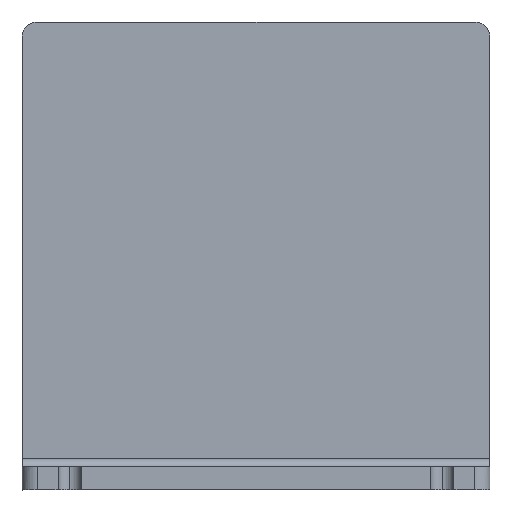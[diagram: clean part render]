
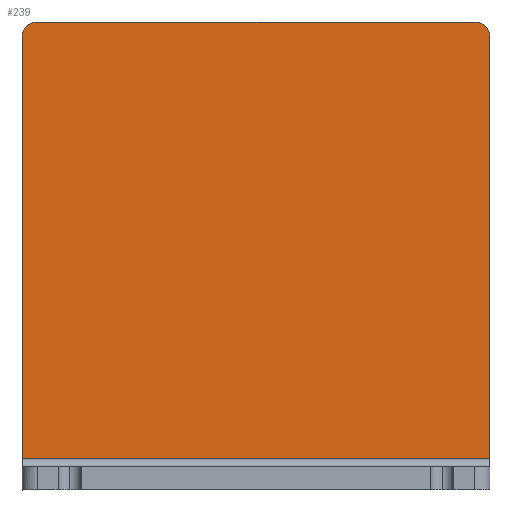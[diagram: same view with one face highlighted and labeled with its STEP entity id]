
A CAD part, left-side view. The second image highlights one B-rep face of the part: STEP entity #239.
In plain terms, the highlighted planar face has unit normal (-1, 0, 0).
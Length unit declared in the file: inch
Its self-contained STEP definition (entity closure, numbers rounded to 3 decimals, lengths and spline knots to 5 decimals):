
#82=PLANE('',#8208);
#239=ADVANCED_FACE('',(#1065),#82,.T.);
#1065=FACE_OUTER_BOUND('',#1499,.T.);
#1499=EDGE_LOOP('',(#2974,#2975,#2976,#2977,#2978,#2979));
#1957=B_SPLINE_CURVE_WITH_KNOTS('',1,(#11382,#11383),.UNSPECIFIED.,.F.,
 .F.,(2,2),(0.,1.),.UNSPECIFIED.);
#1958=B_SPLINE_CURVE_WITH_KNOTS('',1,(#11385,#11386),.UNSPECIFIED.,.F.,
 .F.,(2,2),(0.,1.),.UNSPECIFIED.);
#1959=B_SPLINE_CURVE_WITH_KNOTS('',1,(#11393,#11394),.UNSPECIFIED.,.F.,
 .F.,(2,2),(0.,1.),.UNSPECIFIED.);
#1960=B_SPLINE_CURVE_WITH_KNOTS('',1,(#11395,#11396),.UNSPECIFIED.,.F.,
 .F.,(2,2),(0.,1.),.UNSPECIFIED.);
#2974=ORIENTED_EDGE('',*,*,#6478,.T.);
#2975=ORIENTED_EDGE('',*,*,#6479,.T.);
#2976=ORIENTED_EDGE('',*,*,#6480,.F.);
#2977=ORIENTED_EDGE('',*,*,#6477,.F.);
#2978=ORIENTED_EDGE('',*,*,#6481,.T.);
#2979=ORIENTED_EDGE('',*,*,#6482,.T.);
#5599=VERTEX_POINT('',#11374);
#5601=VERTEX_POINT('',#11381);
#5602=VERTEX_POINT('',#11387);
#5603=VERTEX_POINT('',#11388);
#5604=VERTEX_POINT('',#11392);
#5605=VERTEX_POINT('',#11397);
#6477=EDGE_CURVE('',#5601,#5599,#1957,.T.);
#6478=EDGE_CURVE('',#5602,#5603,#1958,.T.);
#6479=EDGE_CURVE('',#5603,#5604,#7554,.T.);
#6480=EDGE_CURVE('',#5599,#5604,#1959,.T.);
#6481=EDGE_CURVE('',#5601,#5605,#1960,.T.);
#6482=EDGE_CURVE('',#5605,#5602,#7555,.T.);
#7554=(
BOUNDED_CURVE()
B_SPLINE_CURVE(2,(#11389,#11390,#11391),.UNSPECIFIED.,.F.,.F.)
B_SPLINE_CURVE_WITH_KNOTS((3,3),(0.,1.),.UNSPECIFIED.)
CURVE()
GEOMETRIC_REPRESENTATION_ITEM()
RATIONAL_B_SPLINE_CURVE((1.,0.707,1.))
REPRESENTATION_ITEM('')
);
#7555=(
BOUNDED_CURVE()
B_SPLINE_CURVE(2,(#11398,#11399,#11400),.UNSPECIFIED.,.F.,.F.)
B_SPLINE_CURVE_WITH_KNOTS((3,3),(0.,1.),.UNSPECIFIED.)
CURVE()
GEOMETRIC_REPRESENTATION_ITEM()
RATIONAL_B_SPLINE_CURVE((1.,0.707,1.))
REPRESENTATION_ITEM('')
);
#8208=AXIS2_PLACEMENT_3D('',#11401,#8871,#8872);
#8871=DIRECTION('',(-1.,0.,0.));
#8872=DIRECTION('',(0.,0.,1.));
#11374=CARTESIAN_POINT('',(18.74243,4.81121,-2.05892));
#11381=CARTESIAN_POINT('',(18.74243,2.449,-2.05892));
#11382=CARTESIAN_POINT('',(18.74243,2.449,-2.05892));
#11383=CARTESIAN_POINT('',(18.74243,4.81121,-2.05892));
#11385=CARTESIAN_POINT('',(18.74243,2.52774,0.14585));
#11386=CARTESIAN_POINT('',(18.74243,4.73247,0.14585));
#11387=CARTESIAN_POINT('',(18.74243,2.52774,0.14585));
#11388=CARTESIAN_POINT('',(18.74243,4.73247,0.14585));
#11389=CARTESIAN_POINT('',(18.74243,4.73247,0.14585));
#11390=CARTESIAN_POINT('',(18.74243,4.81121,0.14585));
#11391=CARTESIAN_POINT('',(18.74243,4.81121,0.06711));
#11392=CARTESIAN_POINT('',(18.74243,4.81121,0.06711));
#11393=CARTESIAN_POINT('',(18.74243,4.81121,-2.05892));
#11394=CARTESIAN_POINT('',(18.74243,4.81121,0.06711));
#11395=CARTESIAN_POINT('',(18.74243,2.449,-2.05892));
#11396=CARTESIAN_POINT('',(18.74243,2.449,0.06711));
#11397=CARTESIAN_POINT('',(18.74243,2.449,0.06711));
#11398=CARTESIAN_POINT('',(18.74243,2.449,0.06711));
#11399=CARTESIAN_POINT('',(18.74243,2.449,0.14585));
#11400=CARTESIAN_POINT('',(18.74243,2.52774,0.14585));
#11401=CARTESIAN_POINT('',(18.74243,4.81121,0.14585));
